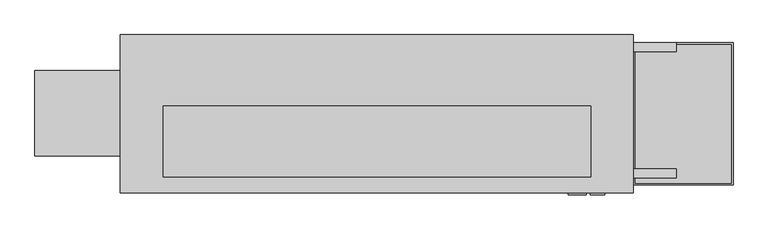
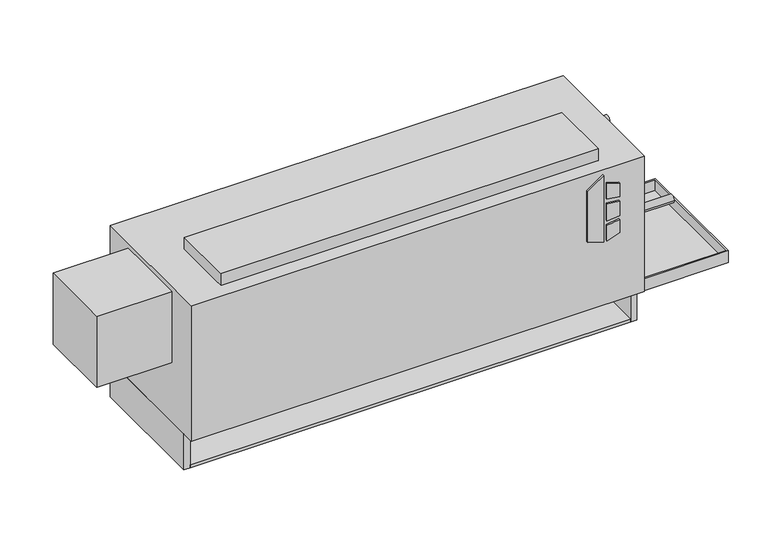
"""IFC4 building model written with IfcOpenShell, lengths in millimetres: proxy geometry, Concealed_Vertical_Low_Boy_Fan_Coil_Unit Fan_-_LHA_-_IEC_-_2-Pipe_RH_2022 : Size 04 - 277v/60Hz/1Ph - 2/1 Coil."""

import ifcopenshell
import ifcopenshell.guid

model = None  # the IFC model being written
_history = None  # IfcOwnerHistory: only IFC2X3 demands one
_inside = {}  # id of a spatial element -> (the spatial element, [elements in it])
_under = {}  # id of a project, library or spatial element -> (it, [spatial elements below it])
_declared = {}  # id of a project -> (the project, [libraries it declares])
_typed = {}  # id of a type object -> (the type object, [elements of that type])
_made_of = {}  # id of a material, layer set ... -> (it, [elements and type objects made of it])


def new_model(schema):
    """Start an empty IFC model of exactly this schema.

    Asked for "IFC4X3", IfcOpenShell would pick the latest addendum, in which some entities
    have other attributes; the version numbers below select the first issue.
    IFC2X3 requires an IfcOwnerHistory on every rooted entity: one is made here for all.
    """
    global model, _history
    if schema == "IFC4X3":
        model = ifcopenshell.file(schema_version=(4, 3, 0, 0))
    else:
        model = ifcopenshell.file(schema=schema)
    _inside.clear()
    _under.clear()
    _declared.clear()
    _typed.clear()
    _made_of.clear()
    _history = None
    if model.schema == "IFC2X3":
        org = make("IfcOrganization", Name="unknown")
        user = make(
            "IfcPersonAndOrganization",
            ThePerson=make("IfcPerson", FamilyName="unknown"),
            TheOrganization=org,
        )
        app = make(
            "IfcApplication",
            ApplicationDeveloper=org,
            Version="unknown",
            ApplicationFullName="unknown",
            ApplicationIdentifier="unknown",
        )
        _history = make(
            "IfcOwnerHistory",
            OwningUser=user,
            OwningApplication=app,
            ChangeAction="ADDED",
            CreationDate=0,
        )
    return model


def make(cls, **values):
    """One entity of the class cls with the attributes given. An attribute that is None is left unset."""
    return model.create_entity(
        cls, **{name: value for name, value in values.items() if value is not None}
    )


def rooted(cls, **values):
    """An entity with a GlobalId (a new one), such as an element, a storey or a relation."""
    return make(cls, GlobalId=ifcopenshell.guid.new(), OwnerHistory=_history, **values)


def si_unit(unit_type, name, prefix=None):
    """IfcSIUnit, for example si_unit("LENGTHUNIT", "METRE", prefix="MILLI")."""
    return make("IfcSIUnit", UnitType=unit_type, Prefix=prefix, Name=name)


def assignment(units):
    """IfcUnitAssignment: the units of a project."""
    return None if units is None else make("IfcUnitAssignment", Units=units)


def point(xyz):
    """IfcCartesianPoint."""
    return None if xyz is None else make("IfcCartesianPoint", Coordinates=xyz)


def direction(xyz):
    """IfcDirection."""
    return None if xyz is None else make("IfcDirection", DirectionRatios=xyz)


def frame(location, z_axis=None, x_axis=None):
    """IfcAxis2Placement3D, a coordinate frame: its origin and axes. An axis left out is left unset."""
    return make(
        "IfcAxis2Placement3D",
        Location=point(location),
        Axis=direction(z_axis),
        RefDirection=direction(x_axis),
    )


def frame_2d(location, x_axis=None):
    """IfcAxis2Placement2D, a coordinate frame in the plane: its origin and x axis."""
    return make(
        "IfcAxis2Placement2D", Location=point(location), RefDirection=direction(x_axis)
    )


def origin():
    """The frame at (0, 0, 0) with its axes left unset."""
    return frame((0.0, 0.0, 0.0))


def origin_with_axes():
    """The frame at (0, 0, 0) with the z axis (0, 0, 1) and the x axis (1, 0, 0) written out."""
    return frame((0.0, 0.0, 0.0), z_axis=(0.0, 0.0, 1.0), x_axis=(1.0, 0.0, 0.0))


def place(relative_to, where):
    """IfcLocalPlacement: puts the frame where relative to a parent placement (None: the world)."""
    return make(
        "IfcLocalPlacement", PlacementRelTo=relative_to, RelativePlacement=where
    )


def context(
    kind, dimensions, precision=None, world=None, true_north=None, identifier=None
):
    """IfcGeometricRepresentationContext, for example the 3D "Model" context."""
    return make(
        "IfcGeometricRepresentationContext",
        ContextIdentifier=identifier,
        ContextType=kind,
        CoordinateSpaceDimension=dimensions,
        Precision=precision,
        WorldCoordinateSystem=world,
        TrueNorth=true_north,
    )


def project(units=None, contexts=None):
    """IfcProject with its units and contexts."""
    return rooted(
        "IfcProject",
        Name="project",
        RepresentationContexts=contexts,
        UnitsInContext=assignment(units),
    )


def spatial(cls, under=None, at=None, **own):
    """A site, building, storey or space (cls), placed at a placement, below another one or the project."""
    s = rooted(cls, ObjectPlacement=at, **own)
    if under is not None:
        _under.setdefault(under.id(), (under, []))[1].append(s)
    return s


def polyline(points):
    """IfcPolyline through the points."""
    return make("IfcPolyline", Points=[point(p) for p in points])


def circle_curve(where, radius):
    """IfcCircle in the frame where."""
    return make("IfcCircle", Position=where, Radius=radius)


def trimmed(basis, trim1, trim2, sense, master):
    """IfcTrimmedCurve: the piece of a basis curve between two trims."""
    return make(
        "IfcTrimmedCurve",
        BasisCurve=basis,
        Trim1=trim1,
        Trim2=trim2,
        SenseAgreement=sense,
        MasterRepresentation=master,
    )


def segment(curve, same_sense, transition):
    """IfcCompositeCurveSegment."""
    return make(
        "IfcCompositeCurveSegment",
        Transition=transition,
        SameSense=same_sense,
        ParentCurve=curve,
    )


def composite_curve(segments, self_intersect=None):
    """IfcCompositeCurve: segments joined end to end."""
    return make("IfcCompositeCurve", Segments=segments, SelfIntersect=self_intersect)


def outline(outer, holes=None, kind="AREA"):
    """IfcArbitraryClosedProfileDef: a profile drawn as a closed curve; with holes, ...WithVoids."""
    if holes is None:
        return make("IfcArbitraryClosedProfileDef", ProfileType=kind, OuterCurve=outer)
    return make(
        "IfcArbitraryProfileDefWithVoids",
        ProfileType=kind,
        OuterCurve=outer,
        InnerCurves=holes,
    )


def extrude(swept, where, along, depth):
    """IfcExtrudedAreaSolid: the profile swept, set in the frame where, extruded along a direction by depth."""
    return make(
        "IfcExtrudedAreaSolid",
        SweptArea=swept,
        Position=where,
        ExtrudedDirection=direction(along),
        Depth=depth,
    )


def faces_of(points, faces, orient=None, outer=None):
    """IfcFace entities. A face is a list of loops; a loop is a list of indices into points, from 0.

    orient and outer hold one flag for each loop. By default every Orientation is true, the
    first loop of a face is its IfcFaceOuterBound and the others are IfcFaceBound.
    """
    made = []
    for i, loops in enumerate(faces):
        bounds = []
        for j, loop in enumerate(loops):
            is_outer = j == 0 if outer is None else outer[i][j]
            bounds.append(
                make(
                    "IfcFaceOuterBound" if is_outer else "IfcFaceBound",
                    Bound=make("IfcPolyLoop", Polygon=[points[k] for k in loop]),
                    Orientation=True if orient is None else orient[i][j],
                )
            )
        made.append(make("IfcFace", Bounds=bounds))
    return made


def faceted_brep(points, faces, orient=None, outer=None, voids=None):
    """IfcFacetedBrep: a solid bounded by flat faces; with voids (closed shells), ...WithVoids."""
    shared = [point(p) for p in points]
    hull = make("IfcClosedShell", CfsFaces=faces_of(shared, faces, orient, outer))
    if voids is None:
        return make("IfcFacetedBrep", Outer=hull)
    return make(
        "IfcFacetedBrepWithVoids",
        Outer=hull,
        Voids=[
            make(cls, CfsFaces=faces_of(shared, fs, o, b)) for cls, fs, o, b in voids
        ],
    )


def shape(context_of_items, identifier, shape_type, items):
    """IfcShapeRepresentation: the items that make up one representation, for example the "Body"."""
    return make(
        "IfcShapeRepresentation",
        ContextOfItems=context_of_items,
        RepresentationIdentifier=identifier,
        RepresentationType=shape_type,
        Items=items,
    )


def source(mapping_origin, context_of_items, identifier, shape_type, items):
    """IfcRepresentationMap: a shape defined once, which mapped items show again and again."""
    return make(
        "IfcRepresentationMap",
        MappingOrigin=mapping_origin,
        MappedRepresentation=shape(context_of_items, identifier, shape_type, items),
    )


def transform(
    local_origin,
    x_axis=None,
    y_axis=None,
    z_axis=None,
    scale=None,
    scale2=None,
    scale3=None,
    uniform=True,
):
    """IfcCartesianTransformationOperator3D, or its non-uniform kind. x_axis, y_axis, z_axis: its Axis1, 2, 3."""
    if uniform:
        return make(
            "IfcCartesianTransformationOperator3D",
            Axis1=direction(x_axis),
            Axis2=direction(y_axis),
            LocalOrigin=point(local_origin),
            Scale=scale,
            Axis3=direction(z_axis),
        )
    return make(
        "IfcCartesianTransformationOperator3DnonUniform",
        Axis1=direction(x_axis),
        Axis2=direction(y_axis),
        LocalOrigin=point(local_origin),
        Scale=scale,
        Axis3=direction(z_axis),
        Scale2=scale2,
        Scale3=scale3,
    )


def mapped(mapping_source, mapping_target):
    """IfcMappedItem: shows the shape of a source again, moved by a transform."""
    return make(
        "IfcMappedItem", MappingSource=mapping_source, MappingTarget=mapping_target
    )


def made_of(thing, what):
    """Note that an element or type object is made of a material, layer set ...; save() writes the relation."""
    if what is not None:
        _made_of.setdefault(what.id(), (what, []))[1].append(thing)
    return thing


def element(
    cls,
    number,
    at=None,
    inside=None,
    cuts=None,
    type_object=None,
    material=None,
    context=None,
    identifier="Body",
    shape_type=None,
    held_by="IfcProductDefinitionShape",
    body=None,
    shapes=None,
    **own,
):
    """One element of the class cls, such as IfcWall. Its Tag is "e" and its number.

    at: its placement. inside: the storey or other place that contains it. cuts: it is an
    opening in that element (IfcRelVoidsElement). A single representation is given by context,
    identifier, shape_type and body (its items); several are given by shapes. held_by: the class
    of the entity that holds the representations. save() writes the other relations.
    """
    e = rooted(cls, Tag="e%d" % number, ObjectPlacement=at, **own)
    if body is not None:
        shapes = [shape(context, identifier, shape_type, body)]
    if shapes is not None:
        e.Representation = make(held_by, Representations=shapes)
    if inside is not None:
        _inside.setdefault(inside.id(), (inside, []))[1].append(e)
    if cuts is not None:
        rooted(
            "IfcRelVoidsElement", RelatingBuildingElement=cuts, RelatedOpeningElement=e
        )
    if type_object is not None:
        _typed.setdefault(type_object.id(), (type_object, []))[1].append(e)
    return made_of(e, material)


def aggregate(whole, parts):
    """IfcRelAggregates: a whole, such as a stair, and the parts it consists of."""
    return rooted("IfcRelAggregates", RelatingObject=whole, RelatedObjects=parts)


def save(model, path):
    """Write the relations noted so far, then the file.

    IfcRelAggregates (storeys below a building ...), IfcRelContainedInSpatialStructure (elements
    in a storey), IfcRelDefinesByType, IfcRelAssociatesMaterial and IfcRelDeclares: one each for
    every whole, place, type object, material and project.
    """
    for whole, parts in _under.values():
        aggregate(whole, parts)
    for where, things in _inside.values():
        rooted(
            "IfcRelContainedInSpatialStructure",
            RelatedElements=things,
            RelatingStructure=where,
        )
    for kind, things in _typed.values():
        rooted("IfcRelDefinesByType", RelatedObjects=things, RelatingType=kind)
    for what, things in _made_of.values():
        rooted("IfcRelAssociatesMaterial", RelatedObjects=things, RelatingMaterial=what)
    for by, libraries in _declared.values():
        rooted("IfcRelDeclares", RelatingContext=by, RelatedDefinitions=libraries)
    model.write(path)


def mechanical_equipment_a0a91249(model_context):
    return source(origin(), model_context, "Body", "SolidModel", [
        faceted_brep([(1244.6, -252.4125, 92.075), (1066.8, -252.4125, 92.075), (1066.8, -506.4125, 92.075), (1244.6, -506.4125, 92.075), (1069.975, -255.5875, 92.075), (1241.425, -255.5875, 92.075), (1241.425, -503.2375, 92.075), (1069.975, -503.2375, 92.075), (1244.6, -252.4125, 66.675), (1244.6, -506.4125, 66.675), (1066.8, -506.4125, 66.675), (1066.8, -252.4125, 66.675), (1241.425, -255.5875, 69.8497888), (1069.975, -255.5875, 69.8497888), (1069.975, -503.2375, 69.8497888), (1241.425, -503.2375, 69.8497888)], [[[0, 1, 2, 3], [4, 5, 6, 7]], [[8, 9, 10, 11]], [[1, 0, 8, 11]], [[2, 1, 11, 10]], [[3, 2, 10, 9]], [[0, 3, 9, 8]], [[12, 13, 14, 15]], [[13, 12, 5, 4]], [[14, 13, 4, 7]], [[15, 14, 7, 6]], [[12, 15, 6, 5]]]),
        extrude(outline(composite_curve([segment(trimmed(circle_curve(frame_2d((1155.7, -379.4125)), 9.525), [point((1146.175, -379.4125))], [point((1165.225, -379.4125))], False, "CARTESIAN"), True, "CONTINUOUS"), segment(trimmed(circle_curve(frame_2d((1155.7, -379.4125)), 9.525), [point((1165.225, -379.4125))], [point((1146.175, -379.4125))], False, "CARTESIAN"), True, "CONTINUOUS")], self_intersect=False)), frame((0.0, 0.0, 41.275), z_axis=(0.0, 0.0, 1.0), x_axis=(1.0, 0.0, 0.0)), (0.0, 0.0, 1.0), 25.4),
        extrude(outline(polyline([(222.6730703, 950.9868862), (212.725, 983.1602728), (354.8959244, 983.1602728), (331.8739183, 950.9868862), (222.6730703, 950.9868862)])), frame((0.0, -523.875, 0.0), z_axis=(0.0, 1.0, 0.0), x_axis=(0.0, 0.0, 1.0)), (0.0, 0.0, 1.0), 3.175),
        extrude(outline(polyline([(301.6723557, 989.9186058), (298.4699632, 1016.0), (327.6988042, 1016.0), (335.7632193, 989.9186058), (301.6723557, 989.9186058)])), frame((0.0, -523.875, 0.0), z_axis=(0.0, 1.0, 0.0), x_axis=(0.0, 0.0, 1.0)), (0.0, 0.0, 1.0), 3.175),
        extrude(outline(polyline([(249.8088288, 1016.0), (246.1433279, 989.9186058), (212.725, 989.9186058), (221.3592372, 1016.0), (249.8088288, 1016.0)])), frame((0.0, -523.875, 0.0), z_axis=(0.0, 1.0, 0.0), x_axis=(0.0, 0.0, 1.0)), (0.0, 0.0, 1.0), 3.175),
        extrude(outline(polyline([(289.1239903, 1016.0), (291.4058166, 989.9186058), (255.4682681, 989.9186058), (258.2095331, 1016.0), (289.1239903, 1016.0)])), frame((0.0, -523.875, 0.0), z_axis=(0.0, 1.0, 0.0), x_axis=(0.0, 0.0, 1.0)), (0.0, 0.0, 1.0), 3.175),
        extrude(outline(polyline([(990.6, -365.125), (990.6, -492.125), (228.6, -492.125), (228.6, -365.125), (990.6, -365.125)])), frame((0.0, 0.0, 365.125), z_axis=(0.0, 0.0, 1.0), x_axis=(1.0, 0.0, 0.0)), (0.0, 0.0, 1.0), 25.4),
        extrude(outline(polyline([(1066.8, -520.7), (152.4, -520.7), (152.4, -238.125), (1066.8, -238.125), (1066.8, -520.7)])), frame((0.0, 0.0, 76.2), z_axis=(0.0, 0.0, 1.0), x_axis=(1.0, 0.0, 0.0)), (0.0, 0.0, 1.0), 288.925),
        extrude(outline(polyline([(1054.1, -495.3), (165.1, -495.3), (165.1, -244.475), (1054.1, -244.475), (1054.1, -495.3)])), origin_with_axes(), (0.0, 0.0, 1.0), 6.35),
        extrude(outline(polyline([(1054.1, -238.125), (1054.1, -244.475), (165.1, -244.475), (165.1, -238.125), (1054.1, -238.125)])), origin_with_axes(), (0.0, 0.0, 1.0), 76.2),
        extrude(outline(polyline([(1066.8, -238.125), (1066.8, -495.3), (1054.1, -495.3), (1054.1, -238.125), (1066.8, -238.125)])), origin_with_axes(), (0.0, 0.0, 1.0), 76.2),
        extrude(outline(polyline([(165.1, -238.125), (165.1, -495.3), (152.4, -495.3), (152.4, -238.125), (165.1, -238.125)])), origin_with_axes(), (0.0, 0.0, 1.0), 76.2),
        extrude(outline(composite_curve([segment(trimmed(circle_curve(frame_2d((-260.35, 260.35)), 7.9375), [point((-252.4125, 260.35))], [point((-268.2875, 260.35))], False, "CARTESIAN"), True, "CONTINUOUS"), segment(trimmed(circle_curve(frame_2d((-260.35, 260.35)), 7.9375), [point((-268.2875, 260.35))], [point((-252.4125, 260.35))], False, "CARTESIAN"), True, "CONTINUOUS")], self_intersect=False)), frame((1066.8, 0.0, 0.0), z_axis=(1.0, 0.0, 0.0), x_axis=(0.0, 1.0, 0.0)), (0.0, 0.0, 1.0), 76.2),
        extrude(outline(composite_curve([segment(trimmed(circle_curve(frame_2d((-485.775, 227.0125)), 7.9375), [point((-477.8375, 227.0125))], [point((-493.7125, 227.0125))], False, "CARTESIAN"), True, "CONTINUOUS"), segment(trimmed(circle_curve(frame_2d((-485.775, 227.0125)), 7.9375), [point((-493.7125, 227.0125))], [point((-477.8375, 227.0125))], False, "CARTESIAN"), True, "CONTINUOUS")], self_intersect=False)), frame((1066.8, 0.0, 0.0), z_axis=(1.0, 0.0, 0.0), x_axis=(0.0, 1.0, 0.0)), (0.0, 0.0, 1.0), 76.2),
        extrude(outline(polyline([(0.0, -301.625), (152.4, -301.625), (152.4, -454.025), (0.0, -454.025), (0.0, -301.625)])), frame((0.0, 0.0, 203.5632719), z_axis=(0.0, 0.0, 1.0), x_axis=(1.0, 0.0, 0.0)), (0.0, 0.0, 1.0), 152.0367281),
    ])


if __name__ == "__main__":
    model = new_model("IFC4")
    model_context = context("Model", 3, world=origin())
    ifc_project = project(units=[si_unit("LENGTHUNIT", "METRE", prefix="MILLI")], contexts=[model_context])
    site = spatial("IfcSite", under=ifc_project)
    building = spatial("IfcBuilding", under=site)
    placement = place(None, origin())
    mechanical_equipment_shape = mechanical_equipment_a0a91249(model_context)
    element("IfcBuildingElementProxy", 1, Name="Concealed_Vertical_Low_Boy_Fan_Coil_Unit Fan_-_LHA_-_IEC_-_2-Pipe_RH_2022 : Size 04 - 277v/60Hz/1Ph - 2/1 Coil", ObjectType="Concealed_Vertical_Low_Boy_Fan_Coil_Unit Fan_-_LHA_-_IEC_-_2-Pipe_RH_2022 : Size 04 - 277v/60Hz/1Ph - 2/1 Coil", at=placement, inside=building, context=model_context, shape_type="MappedRepresentation", body=[
        mapped(mechanical_equipment_shape, transform((0.0, 0.0, 0.0), x_axis=(1.0, 0.0, 0.0), y_axis=(0.0, 1.0, 0.0), z_axis=(0.0, 0.0, 1.0))),
    ])
    save(model, "model.ifc")
